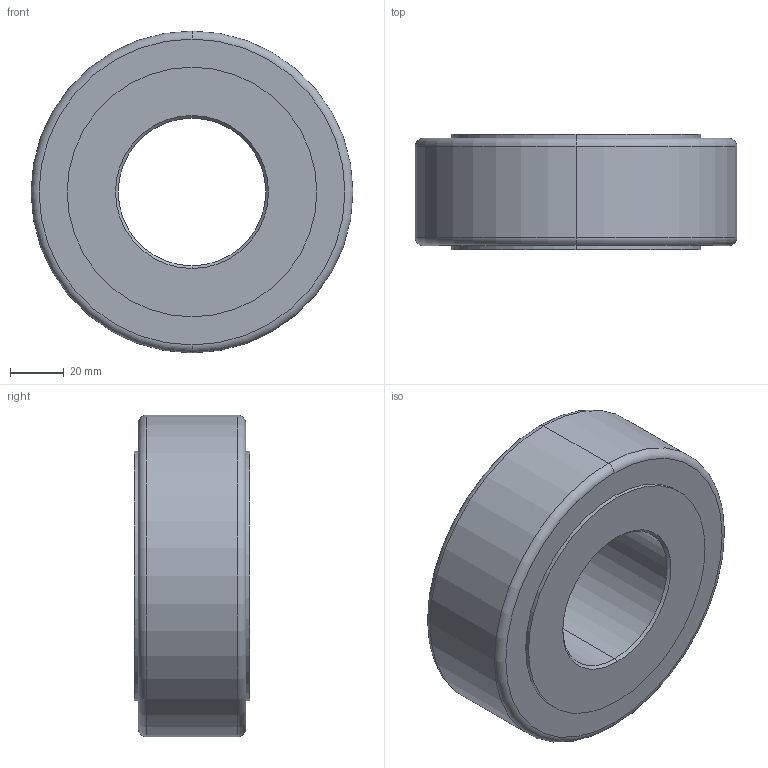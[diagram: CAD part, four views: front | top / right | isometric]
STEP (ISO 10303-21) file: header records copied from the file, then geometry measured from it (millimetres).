
FILE_DESCRIPTION (( 'STEP AP214' ), '1' );
FILE_NAME ('3DRSU55-120.STEP', '2013-12-19T09:31:30', ( 'usuario' ), ( 'Hewlett-Packard Company' ), 'SwSTEP 2.0', 'SolidWorks 2017', '' );
FILE_SCHEMA (( 'AUTOMOTIVE_DESIGN' ));
Length unit declared in the file: millimetre
Products named in the file (1): 3DRSU55-120
Bounding box: 120 x 43 x 120 mm (x, y, z)
Volume: 369017.8 mm3; surface area: 40075.7 mm2
Topology: 1 solids, 1 shells, 20 faces, 40 edges, 24 vertices
Faces by surface type: cylinder 8, cone 4, torus 4, plane 4
Entity records: 566 total; most frequent: DIRECTION 110, CARTESIAN_POINT 85, ORIENTED_EDGE 80, AXIS2_PLACEMENT_3D 49, EDGE_CURVE 40, CIRCLE 28, VERTEX_POINT 24, EDGE_LOOP 24
